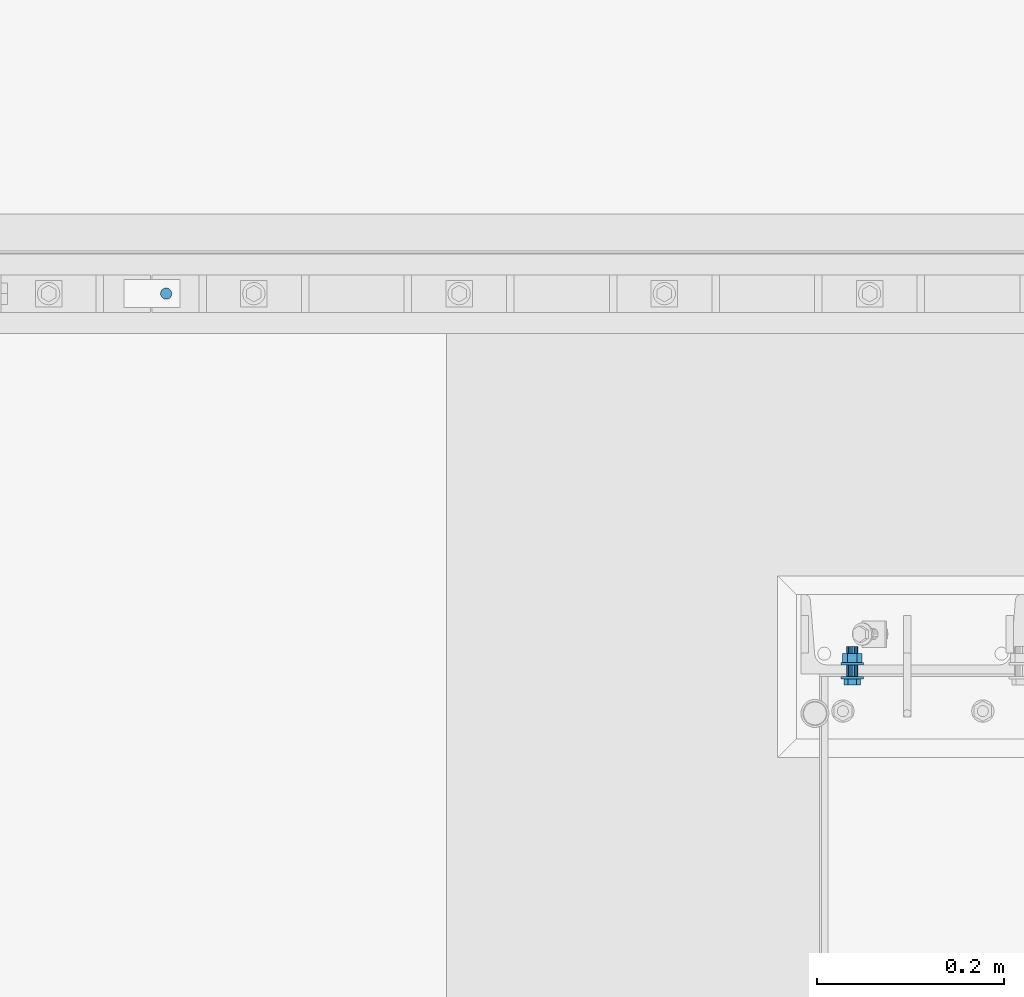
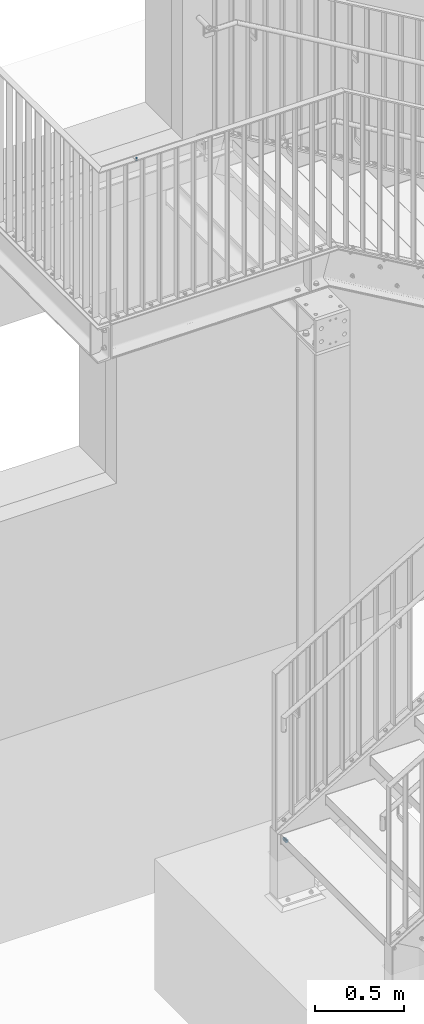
# One storey, part 55 of 145: 2 mechanical fasteners.
"""IFC2X3 building model written with IfcOpenShell, lengths in millimetres."""

from ifc_helpers import new_model, entity, si_unit, converted_unit, origin_with_axes, place, context, project, spatial, faceted_brep, element, save


model = new_model("IFC2X3")

# Units and contexts
model_context = context("Model", 3, precision=1e-09, world=origin_with_axes())
ifc_project = project(units=[si_unit("LENGTHUNIT", "METRE", prefix="MILLI"), si_unit("AREAUNIT", "SQUARE_METRE"), si_unit("VOLUMEUNIT", "CUBIC_METRE"), converted_unit("PLANEANGLEUNIT", "DEGREE", entity("IfcPlaneAngleMeasure", 0.01745329), si_unit("PLANEANGLEUNIT", "RADIAN"), dimensions=[0, 0, 0, 0, 0, 0, 0])], contexts=[model_context])

# Site, building, storey
site_placement = place(None, origin_with_axes())
site = spatial("IfcSite", under=ifc_project, at=site_placement, Name="BZ1 Grund- und Mittelschule 85716 Unterschlei?heim", CompositionType="ELEMENT")
building_placement = place(site_placement, origin_with_axes())
building = spatial("IfcBuilding", under=site, at=building_placement, Name="Struktur 1", CompositionType="ELEMENT")
storey_placement = place(building_placement, origin_with_axes())
storey = spatial("IfcBuildingStorey", under=building, at=storey_placement, Name="Default Storey", CompositionType="ELEMENT", Elevation=0.0)

# Mechanical fasteners
mechanical_fastener_1_placement = place(None, origin_with_axes())
element("IfcMechanicalFastener", 1, at=mechanical_fastener_1_placement, inside=storey, ObjectType="-", NominalDiameter=6.0, NominalLength=20.0, context=model_context, shape_type="Brep", body=[
    faceted_brep([(15964.141490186, -1506.502, 4351.0000004), (15964.141490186, -1506.502, 4350.0000004), (15962.970948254, -1506.617288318, 4350.0000004), (15962.970948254, -1506.617288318, 4351.0000004), (15961.845389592, -1506.958722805, 4350.0000004), (15961.845389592, -1506.958722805, 4351.0000004), (15960.808068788, -1507.513182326, 4350.0000004), (15960.808068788, -1507.513182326, 4351.0000004), (15959.898849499, -1508.259359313, 4350.0000004), (15959.898849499, -1508.259359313, 4351.0000004), (15959.152672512, -1509.168578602, 4350.0000004), (15959.152672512, -1509.168578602, 4351.0000004), (15958.598212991, -1510.205899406, 4350.0000004), (15958.598212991, -1510.205899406, 4351.0000004), (15958.256778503, -1511.331458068, 4350.0000004), (15958.256778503, -1511.331458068, 4351.0000004), (15958.141490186, -1512.502, 4350.0000004), (15958.141490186, -1512.502, 4351.0000004), (15958.256778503, -1513.672541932, 4350.0000004), (15958.256778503, -1513.672541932, 4351.0000004), (15958.598212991, -1514.798100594, 4350.0000004), (15958.598212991, -1514.798100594, 4351.0000004), (15959.152672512, -1515.835421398, 4350.0000004), (15959.152672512, -1515.835421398, 4351.0000004), (15959.898849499, -1516.744640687, 4350.0000004), (15959.898849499, -1516.744640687, 4351.0000004), (15960.808068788, -1517.490817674, 4350.0000004), (15960.808068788, -1517.490817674, 4351.0000004), (15961.845389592, -1518.045277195, 4350.0000004), (15961.845389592, -1518.045277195, 4351.0000004), (15962.970948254, -1518.386711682, 4350.0000004), (15962.970948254, -1518.386711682, 4351.0000004), (15964.141490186, -1518.502, 4350.0000004), (15964.141490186, -1518.502, 4351.0000004), (15965.312032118, -1518.386711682, 4350.0000004), (15965.312032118, -1518.386711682, 4351.0000004), (15966.43759078, -1518.045277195, 4350.0000004), (15966.43759078, -1518.045277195, 4351.0000004), (15967.474911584, -1517.490817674, 4350.0000004), (15967.474911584, -1517.490817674, 4351.0000004), (15968.384130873, -1516.744640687, 4350.0000004), (15968.384130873, -1516.744640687, 4351.0000004), (15969.13030786, -1515.835421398, 4350.0000004), (15969.13030786, -1515.835421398, 4351.0000004), (15969.684767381, -1514.798100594, 4350.0000004), (15969.684767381, -1514.798100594, 4351.0000004), (15970.026201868, -1513.672541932, 4350.0000004), (15970.026201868, -1513.672541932, 4351.0000004), (15970.141490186, -1512.502, 4350.0000004), (15970.141490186, -1512.502, 4351.0000004), (15970.026201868, -1511.331458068, 4350.0000004), (15970.026201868, -1511.331458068, 4351.0000004), (15969.684767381, -1510.205899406, 4350.0000004), (15969.684767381, -1510.205899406, 4351.0000004), (15969.13030786, -1509.168578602, 4350.0000004), (15969.13030786, -1509.168578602, 4351.0000004), (15968.384130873, -1508.259359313, 4350.0000004), (15968.384130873, -1508.259359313, 4351.0000004), (15967.474911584, -1507.513182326, 4350.0000004), (15967.474911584, -1507.513182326, 4351.0000004), (15966.43759078, -1506.958722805, 4350.0000004), (15966.43759078, -1506.958722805, 4351.0000004), (15965.312032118, -1506.617288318, 4350.0000004), (15965.312032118, -1506.617288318, 4351.0000004)], [[[0, 1, 2, 3]], [[3, 2, 4, 5]], [[5, 4, 6, 7]], [[7, 6, 8, 9]], [[9, 8, 10, 11]], [[11, 10, 12, 13]], [[13, 12, 14, 15]], [[15, 14, 16, 17]], [[17, 16, 18, 19]], [[19, 18, 20, 21]], [[21, 20, 22, 23]], [[23, 22, 24, 25]], [[25, 24, 26, 27]], [[27, 26, 28, 29]], [[29, 28, 30, 31]], [[31, 30, 32, 33]], [[33, 32, 34, 35]], [[35, 34, 36, 37]], [[37, 36, 38, 39]], [[39, 38, 40, 41]], [[41, 40, 42, 43]], [[43, 42, 44, 45]], [[45, 44, 46, 47]], [[47, 46, 48, 49]], [[49, 48, 50, 51]], [[51, 50, 52, 53]], [[53, 52, 54, 55]], [[55, 54, 56, 57]], [[57, 56, 58, 59]], [[59, 58, 60, 61]], [[61, 60, 62, 63]], [[63, 62, 1, 0]], [[0, 3, 5, 7, 9, 11, 13, 15, 17, 19, 21, 23, 25, 27, 29, 31, 33, 35, 37, 39, 41, 43, 45, 47, 49, 51, 53, 55, 57, 59, 61, 63]], [[1, 62, 60, 58, 56, 54, 52, 50, 48, 46, 44, 42, 40, 38, 36, 34, 32, 30, 28, 26, 24, 22, 20, 18, 16, 14, 12, 10, 8, 6, 4, 2]]]),
    faceted_brep([(15964.141490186, -1509.502, 4350.0000004), (15964.141490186, -1509.502, 4338.0000004), (15962.993439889, -1509.730361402, 4338.0000004), (15962.993439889, -1509.730361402, 4350.0000004), (15962.020169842, -1510.380679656, 4338.0000004), (15962.020169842, -1510.380679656, 4350.0000004), (15961.369851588, -1511.353949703, 4338.0000004), (15961.369851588, -1511.353949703, 4350.0000004), (15961.141490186, -1512.502, 4338.0000004), (15961.141490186, -1512.502, 4350.0000004), (15961.369851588, -1513.650050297, 4338.0000004), (15961.369851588, -1513.650050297, 4350.0000004), (15962.020169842, -1514.623320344, 4338.0000004), (15962.020169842, -1514.623320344, 4350.0000004), (15962.993439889, -1515.273638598, 4338.0000004), (15962.993439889, -1515.273638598, 4350.0000004), (15964.141490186, -1515.502, 4338.0000004), (15964.141490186, -1515.502, 4350.0000004), (15965.289540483, -1515.273638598, 4338.0000004), (15965.289540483, -1515.273638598, 4350.0000004), (15966.262810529, -1514.623320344, 4338.0000004), (15966.262810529, -1514.623320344, 4350.0000004), (15966.913128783, -1513.650050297, 4338.0000004), (15966.913128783, -1513.650050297, 4350.0000004), (15967.141490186, -1512.502, 4338.0000004), (15967.141490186, -1512.502, 4350.0000004), (15966.913128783, -1511.353949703, 4338.0000004), (15966.913128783, -1511.353949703, 4350.0000004), (15966.262810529, -1510.380679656, 4338.0000004), (15966.262810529, -1510.380679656, 4350.0000004), (15965.289540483, -1509.730361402, 4338.0000004), (15965.289540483, -1509.730361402, 4350.0000004)], [[[0, 1, 2, 3]], [[3, 2, 4, 5]], [[5, 4, 6, 7]], [[7, 6, 8, 9]], [[9, 8, 10, 11]], [[11, 10, 12, 13]], [[13, 12, 14, 15]], [[15, 14, 16, 17]], [[17, 16, 18, 19]], [[19, 18, 20, 21]], [[21, 20, 22, 23]], [[23, 22, 24, 25]], [[25, 24, 26, 27]], [[27, 26, 28, 29]], [[29, 28, 30, 31]], [[31, 30, 1, 0]], [[0, 3, 5, 7, 9, 11, 13, 15, 17, 19, 21, 23, 25, 27, 29, 31]], [[1, 30, 28, 26, 24, 22, 20, 18, 16, 14, 12, 10, 8, 6, 4, 2]]]),
    faceted_brep([(15964.141490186, -1506.502, 4338.0000004), (15964.141490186, -1506.502, 4336.4000004), (15962.970948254, -1506.617288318, 4336.4000004), (15962.970948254, -1506.617288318, 4338.0000004), (15961.845389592, -1506.958722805, 4336.4000004), (15961.845389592, -1506.958722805, 4338.0000004), (15960.808068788, -1507.513182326, 4336.4000004), (15960.808068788, -1507.513182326, 4338.0000004), (15959.898849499, -1508.259359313, 4336.4000004), (15959.898849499, -1508.259359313, 4338.0000004), (15959.152672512, -1509.168578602, 4336.4000004), (15959.152672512, -1509.168578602, 4338.0000004), (15958.598212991, -1510.205899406, 4336.4000004), (15958.598212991, -1510.205899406, 4338.0000004), (15958.256778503, -1511.331458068, 4336.4000004), (15958.256778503, -1511.331458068, 4338.0000004), (15958.141490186, -1512.502, 4336.4000004), (15958.141490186, -1512.502, 4338.0000004), (15958.256778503, -1513.672541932, 4336.4000004), (15958.256778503, -1513.672541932, 4338.0000004), (15958.598212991, -1514.798100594, 4336.4000004), (15958.598212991, -1514.798100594, 4338.0000004), (15959.152672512, -1515.835421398, 4336.4000004), (15959.152672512, -1515.835421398, 4338.0000004), (15959.898849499, -1516.744640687, 4336.4000004), (15959.898849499, -1516.744640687, 4338.0000004), (15960.808068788, -1517.490817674, 4336.4000004), (15960.808068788, -1517.490817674, 4338.0000004), (15961.845389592, -1518.045277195, 4336.4000004), (15961.845389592, -1518.045277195, 4338.0000004), (15962.970948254, -1518.386711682, 4336.4000004), (15962.970948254, -1518.386711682, 4338.0000004), (15964.141490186, -1518.502, 4336.4000004), (15964.141490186, -1518.502, 4338.0000004), (15965.312032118, -1518.386711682, 4336.4000004), (15965.312032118, -1518.386711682, 4338.0000004), (15966.43759078, -1518.045277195, 4336.4000004), (15966.43759078, -1518.045277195, 4338.0000004), (15967.474911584, -1517.490817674, 4336.4000004), (15967.474911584, -1517.490817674, 4338.0000004), (15968.384130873, -1516.744640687, 4336.4000004), (15968.384130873, -1516.744640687, 4338.0000004), (15969.13030786, -1515.835421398, 4336.4000004), (15969.13030786, -1515.835421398, 4338.0000004), (15969.684767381, -1514.798100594, 4336.4000004), (15969.684767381, -1514.798100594, 4338.0000004), (15970.026201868, -1513.672541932, 4336.4000004), (15970.026201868, -1513.672541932, 4338.0000004), (15970.141490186, -1512.502, 4336.4000004), (15970.141490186, -1512.502, 4338.0000004), (15970.026201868, -1511.331458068, 4336.4000004), (15970.026201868, -1511.331458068, 4338.0000004), (15969.684767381, -1510.205899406, 4336.4000004), (15969.684767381, -1510.205899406, 4338.0000004), (15969.13030786, -1509.168578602, 4336.4000004), (15969.13030786, -1509.168578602, 4338.0000004), (15968.384130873, -1508.259359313, 4336.4000004), (15968.384130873, -1508.259359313, 4338.0000004), (15967.474911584, -1507.513182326, 4336.4000004), (15967.474911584, -1507.513182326, 4338.0000004), (15966.43759078, -1506.958722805, 4336.4000004), (15966.43759078, -1506.958722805, 4338.0000004), (15965.312032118, -1506.617288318, 4336.4000004), (15965.312032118, -1506.617288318, 4338.0000004)], [[[0, 1, 2, 3]], [[3, 2, 4, 5]], [[5, 4, 6, 7]], [[7, 6, 8, 9]], [[9, 8, 10, 11]], [[11, 10, 12, 13]], [[13, 12, 14, 15]], [[15, 14, 16, 17]], [[17, 16, 18, 19]], [[19, 18, 20, 21]], [[21, 20, 22, 23]], [[23, 22, 24, 25]], [[25, 24, 26, 27]], [[27, 26, 28, 29]], [[29, 28, 30, 31]], [[31, 30, 32, 33]], [[33, 32, 34, 35]], [[35, 34, 36, 37]], [[37, 36, 38, 39]], [[39, 38, 40, 41]], [[41, 40, 42, 43]], [[43, 42, 44, 45]], [[45, 44, 46, 47]], [[47, 46, 48, 49]], [[49, 48, 50, 51]], [[51, 50, 52, 53]], [[53, 52, 54, 55]], [[55, 54, 56, 57]], [[57, 56, 58, 59]], [[59, 58, 60, 61]], [[61, 60, 62, 63]], [[63, 62, 1, 0]], [[0, 3, 5, 7, 9, 11, 13, 15, 17, 19, 21, 23, 25, 27, 29, 31, 33, 35, 37, 39, 41, 43, 45, 47, 49, 51, 53, 55, 57, 59, 61, 63]], [[1, 62, 60, 58, 56, 54, 52, 50, 48, 46, 44, 42, 40, 38, 36, 34, 32, 30, 28, 26, 24, 22, 20, 18, 16, 14, 12, 10, 8, 6, 4, 2]]]),
    faceted_brep([(15961.378990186, -1517.286790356, 4331.4000004), (15961.378990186, -1517.286790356, 4336.4000004), (15958.616490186, -1512.502, 4336.4000004), (15958.616490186, -1512.502, 4331.4000004), (15961.378990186, -1507.717209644, 4336.4000004), (15961.378990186, -1507.717209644, 4331.4000004), (15966.903990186, -1507.717209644, 4336.4000004), (15966.903990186, -1507.717209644, 4331.4000004), (15969.666490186, -1512.502, 4336.4000004), (15969.666490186, -1512.502, 4331.4000004), (15966.903990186, -1517.286790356, 4336.4000004), (15966.903990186, -1517.286790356, 4331.4000004)], [[[0, 1, 2, 3]], [[3, 2, 4, 5]], [[5, 4, 6, 7]], [[7, 6, 8, 9]], [[9, 8, 10, 11]], [[11, 10, 1, 0]], [[4, 2, 1, 10, 8, 6]], [[0, 3, 5, 7, 9, 11]]]),
    faceted_brep([(15964.141490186, -1509.502, 4331.4000004), (15964.141490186, -1509.502, 4330.0000004), (15962.993439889, -1509.730361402, 4330.0000004), (15962.993439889, -1509.730361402, 4331.4000004), (15962.020169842, -1510.380679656, 4330.0000004), (15962.020169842, -1510.380679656, 4331.4000004), (15961.369851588, -1511.353949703, 4330.0000004), (15961.369851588, -1511.353949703, 4331.4000004), (15961.141490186, -1512.502, 4330.0000004), (15961.141490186, -1512.502, 4331.4000004), (15961.369851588, -1513.650050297, 4330.0000004), (15961.369851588, -1513.650050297, 4331.4000004), (15962.020169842, -1514.623320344, 4330.0000004), (15962.020169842, -1514.623320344, 4331.4000004), (15962.993439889, -1515.273638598, 4330.0000004), (15962.993439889, -1515.273638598, 4331.4000004), (15964.141490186, -1515.502, 4330.0000004), (15964.141490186, -1515.502, 4331.4000004), (15965.289540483, -1515.273638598, 4330.0000004), (15965.289540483, -1515.273638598, 4331.4000004), (15966.262810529, -1514.623320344, 4330.0000004), (15966.262810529, -1514.623320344, 4331.4000004), (15966.913128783, -1513.650050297, 4330.0000004), (15966.913128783, -1513.650050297, 4331.4000004), (15967.141490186, -1512.502, 4330.0000004), (15967.141490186, -1512.502, 4331.4000004), (15966.913128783, -1511.353949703, 4330.0000004), (15966.913128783, -1511.353949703, 4331.4000004), (15966.262810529, -1510.380679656, 4330.0000004), (15966.262810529, -1510.380679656, 4331.4000004), (15965.289540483, -1509.730361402, 4330.0000004), (15965.289540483, -1509.730361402, 4331.4000004)], [[[0, 1, 2, 3]], [[3, 2, 4, 5]], [[5, 4, 6, 7]], [[7, 6, 8, 9]], [[9, 8, 10, 11]], [[11, 10, 12, 13]], [[13, 12, 14, 15]], [[15, 14, 16, 17]], [[17, 16, 18, 19]], [[19, 18, 20, 21]], [[21, 20, 22, 23]], [[23, 22, 24, 25]], [[25, 24, 26, 27]], [[27, 26, 28, 29]], [[29, 28, 30, 31]], [[31, 30, 1, 0]], [[0, 3, 5, 7, 9, 11, 13, 15, 17, 19, 21, 23, 25, 27, 29, 31]], [[1, 30, 28, 26, 24, 22, 20, 18, 16, 14, 12, 10, 8, 6, 4, 2]]]),
])
mechanical_fastener_2_placement = place(None, origin_with_axes())
element("IfcMechanicalFastener", 2, at=mechanical_fastener_2_placement, inside=storey, ObjectType="-", NominalDiameter=12.0, NominalLength=35.0, context=model_context, shape_type="Brep", body=[
    faceted_brep([(16699.545399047, -1923.002, -358.3636356), (16699.545399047, -1925.502, -358.3636356), (16697.204315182, -1925.502, -358.133058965), (16697.204315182, -1923.002, -358.133058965), (16694.953197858, -1925.502, -357.45018999), (16694.953197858, -1923.002, -357.45018999), (16692.87855625, -1925.502, -356.341270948), (16692.87855625, -1923.002, -356.341270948), (16691.060117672, -1925.502, -354.848916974), (16691.060117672, -1923.002, -354.848916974), (16689.567763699, -1925.502, -353.030478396), (16689.567763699, -1923.002, -353.030478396), (16688.458844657, -1925.502, -350.955836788), (16688.458844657, -1923.002, -350.955836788), (16687.775975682, -1925.502, -348.704719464), (16687.775975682, -1923.002, -348.704719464), (16687.545399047, -1925.502, -346.3636356), (16687.545399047, -1923.002, -346.3636356), (16687.775975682, -1925.502, -344.022551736), (16687.775975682, -1923.002, -344.022551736), (16688.458844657, -1925.502, -341.771434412), (16688.458844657, -1923.002, -341.771434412), (16689.567763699, -1925.502, -339.696792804), (16689.567763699, -1923.002, -339.696792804), (16691.060117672, -1925.502, -337.878354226), (16691.060117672, -1923.002, -337.878354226), (16692.87855625, -1925.502, -336.386000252), (16692.87855625, -1923.002, -336.386000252), (16694.953197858, -1925.502, -335.27708121), (16694.953197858, -1923.002, -335.27708121), (16697.204315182, -1925.502, -334.594212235), (16697.204315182, -1923.002, -334.594212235), (16699.545399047, -1925.502, -334.3636356), (16699.545399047, -1923.002, -334.3636356), (16701.886482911, -1925.502, -334.594212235), (16701.886482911, -1923.002, -334.594212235), (16704.137600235, -1925.502, -335.27708121), (16704.137600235, -1923.002, -335.27708121), (16706.212241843, -1925.502, -336.386000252), (16706.212241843, -1923.002, -336.386000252), (16708.030680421, -1925.502, -337.878354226), (16708.030680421, -1923.002, -337.878354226), (16709.523034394, -1925.502, -339.696792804), (16709.523034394, -1923.002, -339.696792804), (16710.631953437, -1925.502, -341.771434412), (16710.631953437, -1923.002, -341.771434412), (16711.314822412, -1925.502, -344.022551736), (16711.314822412, -1923.002, -344.022551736), (16711.545399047, -1925.502, -346.3636356), (16711.545399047, -1923.002, -346.3636356), (16711.314822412, -1925.502, -348.704719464), (16711.314822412, -1923.002, -348.704719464), (16710.631953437, -1925.502, -350.955836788), (16710.631953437, -1923.002, -350.955836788), (16709.523034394, -1925.502, -353.030478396), (16709.523034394, -1923.002, -353.030478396), (16708.030680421, -1925.502, -354.848916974), (16708.030680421, -1923.002, -354.848916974), (16706.212241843, -1925.502, -356.341270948), (16706.212241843, -1923.002, -356.341270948), (16704.137600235, -1925.502, -357.45018999), (16704.137600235, -1923.002, -357.45018999), (16701.886482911, -1925.502, -358.133058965), (16701.886482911, -1923.002, -358.133058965)], [[[0, 1, 2, 3]], [[3, 2, 4, 5]], [[5, 4, 6, 7]], [[7, 6, 8, 9]], [[9, 8, 10, 11]], [[11, 10, 12, 13]], [[13, 12, 14, 15]], [[15, 14, 16, 17]], [[17, 16, 18, 19]], [[19, 18, 20, 21]], [[21, 20, 22, 23]], [[23, 22, 24, 25]], [[25, 24, 26, 27]], [[27, 26, 28, 29]], [[29, 28, 30, 31]], [[31, 30, 32, 33]], [[33, 32, 34, 35]], [[35, 34, 36, 37]], [[37, 36, 38, 39]], [[39, 38, 40, 41]], [[41, 40, 42, 43]], [[43, 42, 44, 45]], [[45, 44, 46, 47]], [[47, 46, 48, 49]], [[49, 48, 50, 51]], [[51, 50, 52, 53]], [[53, 52, 54, 55]], [[55, 54, 56, 57]], [[57, 56, 58, 59]], [[59, 58, 60, 61]], [[61, 60, 62, 63]], [[63, 62, 1, 0]], [[2, 1, 62, 60, 58, 56, 54, 52, 50, 48, 46, 44, 42, 40, 38, 36, 34, 32, 30, 28, 26, 24, 22, 20, 18, 16, 14, 12, 10, 8, 6, 4]], [[63, 0, 3, 5, 7, 9, 11, 13, 15, 17, 19, 21, 23, 25, 27, 29, 31, 33, 35, 37, 39, 41, 43, 45, 47, 49, 51, 53, 55, 57, 59, 61]]]),
    faceted_brep([(16695.102899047, -1931.902, -338.668999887), (16695.102899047, -1925.502, -338.668999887), (16690.660399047, -1925.502, -346.3636356), (16690.660399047, -1931.902, -346.3636356), (16695.102899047, -1925.502, -354.058271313), (16695.102899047, -1931.902, -354.058271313), (16703.987899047, -1925.502, -354.058271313), (16703.987899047, -1931.902, -354.058271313), (16708.430399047, -1925.502, -346.3636356), (16708.430399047, -1931.902, -346.3636356), (16703.987899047, -1925.502, -338.668999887), (16703.987899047, -1931.902, -338.668999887)], [[[0, 1, 2, 3]], [[3, 2, 4, 5]], [[5, 4, 6, 7]], [[7, 6, 8, 9]], [[9, 8, 10, 11]], [[11, 10, 1, 0]], [[3, 5, 7, 9, 11, 0]], [[2, 1, 10, 8, 6, 4]]]),
    faceted_brep([(16699.545399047, -1910.502, -352.3636356), (16699.545399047, -1923.002, -352.3636356), (16697.249298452, -1923.002, -351.906912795), (16697.249298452, -1910.502, -351.906912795), (16695.30275836, -1923.002, -350.606276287), (16695.30275836, -1910.502, -350.606276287), (16694.002121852, -1923.002, -348.659736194), (16694.002121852, -1910.502, -348.659736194), (16693.545399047, -1923.002, -346.3636356), (16693.545399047, -1910.502, -346.3636356), (16694.002121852, -1923.002, -344.067535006), (16694.002121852, -1910.502, -344.067535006), (16695.30275836, -1923.002, -342.120994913), (16695.30275836, -1910.502, -342.120994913), (16697.249298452, -1923.002, -340.820358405), (16697.249298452, -1910.502, -340.820358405), (16699.545399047, -1923.002, -340.3636356), (16699.545399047, -1910.502, -340.3636356), (16701.841499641, -1923.002, -340.820358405), (16701.841499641, -1910.502, -340.820358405), (16703.788039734, -1923.002, -342.120994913), (16703.788039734, -1910.502, -342.120994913), (16705.088676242, -1923.002, -344.067535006), (16705.088676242, -1910.502, -344.067535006), (16705.545399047, -1923.002, -346.3636356), (16705.545399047, -1910.502, -346.3636356), (16705.088676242, -1923.002, -348.659736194), (16705.088676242, -1910.502, -348.659736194), (16703.788039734, -1923.002, -350.606276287), (16703.788039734, -1910.502, -350.606276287), (16701.841499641, -1923.002, -351.906912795), (16701.841499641, -1910.502, -351.906912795)], [[[0, 1, 2, 3]], [[3, 2, 4, 5]], [[5, 4, 6, 7]], [[7, 6, 8, 9]], [[9, 8, 10, 11]], [[11, 10, 12, 13]], [[13, 12, 14, 15]], [[15, 14, 16, 17]], [[17, 16, 18, 19]], [[19, 18, 20, 21]], [[21, 20, 22, 23]], [[23, 22, 24, 25]], [[25, 24, 26, 27]], [[27, 26, 28, 29]], [[29, 28, 30, 31]], [[31, 30, 1, 0]], [[2, 1, 30, 28, 26, 24, 22, 20, 18, 16, 14, 12, 10, 8, 6, 4]], [[31, 0, 3, 5, 7, 9, 11, 13, 15, 17, 19, 21, 23, 25, 27, 29]]]),
    faceted_brep([(16699.545399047, -1908.002, -358.3636356), (16699.545399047, -1910.502, -358.3636356), (16697.204315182, -1910.502, -358.133058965), (16697.204315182, -1908.002, -358.133058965), (16694.953197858, -1910.502, -357.45018999), (16694.953197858, -1908.002, -357.45018999), (16692.87855625, -1910.502, -356.341270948), (16692.87855625, -1908.002, -356.341270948), (16691.060117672, -1910.502, -354.848916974), (16691.060117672, -1908.002, -354.848916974), (16689.567763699, -1910.502, -353.030478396), (16689.567763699, -1908.002, -353.030478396), (16688.458844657, -1910.502, -350.955836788), (16688.458844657, -1908.002, -350.955836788), (16687.775975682, -1910.502, -348.704719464), (16687.775975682, -1908.002, -348.704719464), (16687.545399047, -1910.502, -346.3636356), (16687.545399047, -1908.002, -346.3636356), (16687.775975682, -1910.502, -344.022551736), (16687.775975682, -1908.002, -344.022551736), (16688.458844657, -1910.502, -341.771434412), (16688.458844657, -1908.002, -341.771434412), (16689.567763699, -1910.502, -339.696792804), (16689.567763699, -1908.002, -339.696792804), (16691.060117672, -1910.502, -337.878354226), (16691.060117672, -1908.002, -337.878354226), (16692.87855625, -1910.502, -336.386000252), (16692.87855625, -1908.002, -336.386000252), (16694.953197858, -1910.502, -335.27708121), (16694.953197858, -1908.002, -335.27708121), (16697.204315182, -1910.502, -334.594212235), (16697.204315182, -1908.002, -334.594212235), (16699.545399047, -1910.502, -334.3636356), (16699.545399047, -1908.002, -334.3636356), (16701.886482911, -1910.502, -334.594212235), (16701.886482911, -1908.002, -334.594212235), (16704.137600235, -1910.502, -335.27708121), (16704.137600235, -1908.002, -335.27708121), (16706.212241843, -1910.502, -336.386000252), (16706.212241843, -1908.002, -336.386000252), (16708.030680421, -1910.502, -337.878354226), (16708.030680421, -1908.002, -337.878354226), (16709.523034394, -1910.502, -339.696792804), (16709.523034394, -1908.002, -339.696792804), (16710.631953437, -1910.502, -341.771434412), (16710.631953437, -1908.002, -341.771434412), (16711.314822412, -1910.502, -344.022551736), (16711.314822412, -1908.002, -344.022551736), (16711.545399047, -1910.502, -346.3636356), (16711.545399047, -1908.002, -346.3636356), (16711.314822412, -1910.502, -348.704719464), (16711.314822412, -1908.002, -348.704719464), (16710.631953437, -1910.502, -350.955836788), (16710.631953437, -1908.002, -350.955836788), (16709.523034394, -1910.502, -353.030478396), (16709.523034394, -1908.002, -353.030478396), (16708.030680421, -1910.502, -354.848916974), (16708.030680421, -1908.002, -354.848916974), (16706.212241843, -1910.502, -356.341270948), (16706.212241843, -1908.002, -356.341270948), (16704.137600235, -1910.502, -357.45018999), (16704.137600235, -1908.002, -357.45018999), (16701.886482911, -1910.502, -358.133058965), (16701.886482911, -1908.002, -358.133058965)], [[[0, 1, 2, 3]], [[3, 2, 4, 5]], [[5, 4, 6, 7]], [[7, 6, 8, 9]], [[9, 8, 10, 11]], [[11, 10, 12, 13]], [[13, 12, 14, 15]], [[15, 14, 16, 17]], [[17, 16, 18, 19]], [[19, 18, 20, 21]], [[21, 20, 22, 23]], [[23, 22, 24, 25]], [[25, 24, 26, 27]], [[27, 26, 28, 29]], [[29, 28, 30, 31]], [[31, 30, 32, 33]], [[33, 32, 34, 35]], [[35, 34, 36, 37]], [[37, 36, 38, 39]], [[39, 38, 40, 41]], [[41, 40, 42, 43]], [[43, 42, 44, 45]], [[45, 44, 46, 47]], [[47, 46, 48, 49]], [[49, 48, 50, 51]], [[51, 50, 52, 53]], [[53, 52, 54, 55]], [[55, 54, 56, 57]], [[57, 56, 58, 59]], [[59, 58, 60, 61]], [[61, 60, 62, 63]], [[63, 62, 1, 0]], [[2, 1, 62, 60, 58, 56, 54, 52, 50, 48, 46, 44, 42, 40, 38, 36, 34, 32, 30, 28, 26, 24, 22, 20, 18, 16, 14, 12, 10, 8, 6, 4]], [[63, 0, 3, 5, 7, 9, 11, 13, 15, 17, 19, 21, 23, 25, 27, 29, 31, 33, 35, 37, 39, 41, 43, 45, 47, 49, 51, 53, 55, 57, 59, 61]]]),
    faceted_brep([(16694.270399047, -1908.002, -337.22706759), (16694.270399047, -1898.002, -337.22706759), (16688.995399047, -1898.002, -346.3636356), (16688.995399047, -1908.002, -346.3636356), (16694.270399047, -1898.002, -355.50020361), (16694.270399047, -1908.002, -355.50020361), (16704.820399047, -1898.002, -355.50020361), (16704.820399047, -1908.002, -355.50020361), (16710.095399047, -1898.002, -346.3636356), (16710.095399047, -1908.002, -346.3636356), (16704.820399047, -1898.002, -337.22706759), (16704.820399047, -1908.002, -337.22706759)], [[[0, 1, 2, 3]], [[3, 2, 4, 5]], [[5, 4, 6, 7]], [[7, 6, 8, 9]], [[9, 8, 10, 11]], [[11, 10, 1, 0]], [[3, 5, 7, 9, 11, 0]], [[2, 1, 10, 8, 6, 4]]]),
    faceted_brep([(16699.545399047, -1890.502, -352.3636356), (16699.545399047, -1898.002, -352.3636356), (16697.249298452, -1898.002, -351.906912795), (16697.249298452, -1890.502, -351.906912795), (16695.30275836, -1898.002, -350.606276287), (16695.30275836, -1890.502, -350.606276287), (16694.002121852, -1898.002, -348.659736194), (16694.002121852, -1890.502, -348.659736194), (16693.545399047, -1898.002, -346.3636356), (16693.545399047, -1890.502, -346.3636356), (16694.002121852, -1898.002, -344.067535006), (16694.002121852, -1890.502, -344.067535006), (16695.30275836, -1898.002, -342.120994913), (16695.30275836, -1890.502, -342.120994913), (16697.249298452, -1898.002, -340.820358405), (16697.249298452, -1890.502, -340.820358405), (16699.545399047, -1898.002, -340.3636356), (16699.545399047, -1890.502, -340.3636356), (16701.841499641, -1898.002, -340.820358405), (16701.841499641, -1890.502, -340.820358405), (16703.788039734, -1898.002, -342.120994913), (16703.788039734, -1890.502, -342.120994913), (16705.088676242, -1898.002, -344.067535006), (16705.088676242, -1890.502, -344.067535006), (16705.545399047, -1898.002, -346.3636356), (16705.545399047, -1890.502, -346.3636356), (16705.088676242, -1898.002, -348.659736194), (16705.088676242, -1890.502, -348.659736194), (16703.788039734, -1898.002, -350.606276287), (16703.788039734, -1890.502, -350.606276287), (16701.841499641, -1898.002, -351.906912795), (16701.841499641, -1890.502, -351.906912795)], [[[0, 1, 2, 3]], [[3, 2, 4, 5]], [[5, 4, 6, 7]], [[7, 6, 8, 9]], [[9, 8, 10, 11]], [[11, 10, 12, 13]], [[13, 12, 14, 15]], [[15, 14, 16, 17]], [[17, 16, 18, 19]], [[19, 18, 20, 21]], [[21, 20, 22, 23]], [[23, 22, 24, 25]], [[25, 24, 26, 27]], [[27, 26, 28, 29]], [[29, 28, 30, 31]], [[31, 30, 1, 0]], [[2, 1, 30, 28, 26, 24, 22, 20, 18, 16, 14, 12, 10, 8, 6, 4]], [[31, 0, 3, 5, 7, 9, 11, 13, 15, 17, 19, 21, 23, 25, 27, 29]]]),
])

save(model, "model.ifc")
